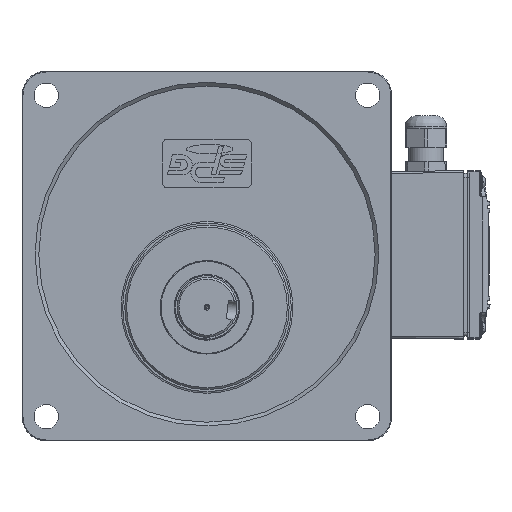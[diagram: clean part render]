
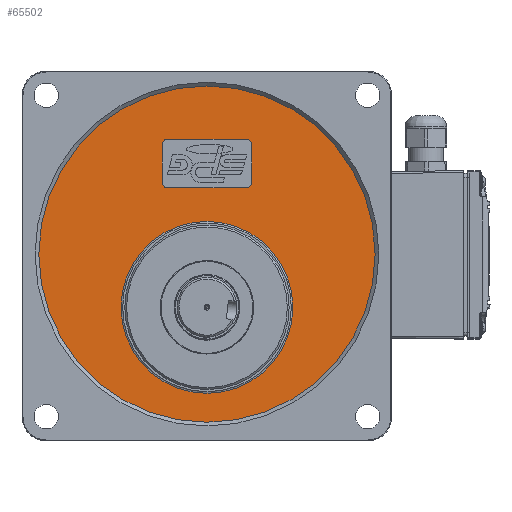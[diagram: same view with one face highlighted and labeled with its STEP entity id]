
A CAD part, top view. The second image highlights one B-rep face of the part: STEP entity #65502.
In plain terms, the highlighted planar face has unit normal (0, 0, 1).
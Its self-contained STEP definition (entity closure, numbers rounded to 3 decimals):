
#65401=CARTESIAN_POINT('',(46.0,28.5,94.));
#65402=VERTEX_POINT('',#65401);
#65403=CARTESIAN_POINT('',(0.0,28.5,94.));
#65404=DIRECTION('',(0.0,0.0,1.0));
#65405=DIRECTION('',(-1.0,0.0,0.0));
#65406=AXIS2_PLACEMENT_3D('',#65403,#65404,#65405);
#65407=CIRCLE('',#65406,46.0);
#65408=EDGE_CURVE('',#65402,#65402,#65407,.T.);
#65413=CARTESIAN_POINT('',(0.0,0.0,94.));
#65414=DIRECTION('',(0.0,0.0,-1.0));
#65415=DIRECTION('',(-1.0,0.0,0.0));
#65416=AXIS2_PLACEMENT_3D('',#65413,#65414,#65415);
#65417=PLANE('',#65416);
#65418=CARTESIAN_POINT('',(90.0,0.,94.));
#65419=VERTEX_POINT('',#65418);
#65420=CARTESIAN_POINT('',(0.0,0.0,94.));
#65421=DIRECTION('',(0.0,0.0,1.0));
#65422=DIRECTION('',(-1.0,0.0,0.0));
#65423=AXIS2_PLACEMENT_3D('',#65420,#65421,#65422);
#65424=CIRCLE('',#65423,90.0);
#65425=EDGE_CURVE('',#65419,#65419,#65424,.T.);
#65426=ORIENTED_EDGE('',*,*,#65425,.T.);
#65427=EDGE_LOOP('',(#65426));
#65428=FACE_OUTER_BOUND('',#65427,.T.);
#65429=CARTESIAN_POINT('',(-24.,-58.5,94.));
#65430=VERTEX_POINT('',#65429);
#65431=CARTESIAN_POINT('',(-24.,-38.5,94.));
#65432=VERTEX_POINT('',#65431);
#65433=CARTESIAN_POINT('',(-24.,-58.5,94.));
#65434=DIRECTION('',(0.0,1.0,0.0));
#65435=VECTOR('',#65434,20.);
#65436=LINE('',#65433,#65435);
#65437=EDGE_CURVE('',#65430,#65432,#65436,.T.);
#65438=ORIENTED_EDGE('',*,*,#65437,.T.);
#65439=CARTESIAN_POINT('',(-21.,-35.5,94.));
#65440=VERTEX_POINT('',#65439);
#65441=CARTESIAN_POINT('',(-21.,-38.5,94.));
#65442=DIRECTION('',(0.0,0.0,1.0));
#65443=DIRECTION('',(-0.707,0.707,0.0));
#65444=AXIS2_PLACEMENT_3D('',#65441,#65442,#65443);
#65445=CIRCLE('',#65444,3.0);
#65446=EDGE_CURVE('',#65440,#65432,#65445,.T.);
#65447=ORIENTED_EDGE('',*,*,#65446,.F.);
#65448=CARTESIAN_POINT('',(21.,-35.5,94.));
#65449=VERTEX_POINT('',#65448);
#65450=CARTESIAN_POINT('',(-21.,-35.5,94.));
#65451=DIRECTION('',(1.0,0.0,0.0));
#65452=VECTOR('',#65451,42.);
#65453=LINE('',#65450,#65452);
#65454=EDGE_CURVE('',#65440,#65449,#65453,.T.);
#65455=ORIENTED_EDGE('',*,*,#65454,.T.);
#65456=CARTESIAN_POINT('',(24.,-38.5,94.));
#65457=VERTEX_POINT('',#65456);
#65458=CARTESIAN_POINT('',(21.,-38.5,94.));
#65459=DIRECTION('',(0.0,0.0,1.0));
#65460=DIRECTION('',(0.707,0.707,0.0));
#65461=AXIS2_PLACEMENT_3D('',#65458,#65459,#65460);
#65462=CIRCLE('',#65461,3.0);
#65463=EDGE_CURVE('',#65457,#65449,#65462,.T.);
#65464=ORIENTED_EDGE('',*,*,#65463,.F.);
#65465=CARTESIAN_POINT('',(24.,-58.5,94.));
#65466=VERTEX_POINT('',#65465);
#65467=CARTESIAN_POINT('',(24.,-38.5,94.));
#65468=DIRECTION('',(0.0,-1.0,0.0));
#65469=VECTOR('',#65468,20.);
#65470=LINE('',#65467,#65469);
#65471=EDGE_CURVE('',#65457,#65466,#65470,.T.);
#65472=ORIENTED_EDGE('',*,*,#65471,.T.);
#65473=CARTESIAN_POINT('',(21.,-61.5,94.));
#65474=VERTEX_POINT('',#65473);
#65475=CARTESIAN_POINT('',(21.,-58.5,94.));
#65476=DIRECTION('',(0.0,0.0,1.0));
#65477=DIRECTION('',(0.707,-0.707,0.0));
#65478=AXIS2_PLACEMENT_3D('',#65475,#65476,#65477);
#65479=CIRCLE('',#65478,3.);
#65480=EDGE_CURVE('',#65474,#65466,#65479,.T.);
#65481=ORIENTED_EDGE('',*,*,#65480,.F.);
#65482=CARTESIAN_POINT('',(-21.,-61.5,94.));
#65483=VERTEX_POINT('',#65482);
#65484=CARTESIAN_POINT('',(21.,-61.5,94.));
#65485=DIRECTION('',(-1.0,0.0,0.0));
#65486=VECTOR('',#65485,42.);
#65487=LINE('',#65484,#65486);
#65488=EDGE_CURVE('',#65474,#65483,#65487,.T.);
#65489=ORIENTED_EDGE('',*,*,#65488,.T.);
#65490=CARTESIAN_POINT('',(-21.,-58.5,94.));
#65491=DIRECTION('',(0.0,0.0,1.0));
#65492=DIRECTION('',(-0.707,-0.707,0.0));
#65493=AXIS2_PLACEMENT_3D('',#65490,#65491,#65492);
#65494=CIRCLE('',#65493,3.0);
#65495=EDGE_CURVE('',#65430,#65483,#65494,.T.);
#65496=ORIENTED_EDGE('',*,*,#65495,.F.);
#65497=EDGE_LOOP('',(#65438,#65447,#65455,#65464,#65472,#65481,#65489,#65496));
#65498=FACE_BOUND('',#65497,.T.);
#65499=ORIENTED_EDGE('',*,*,#65408,.F.);
#65500=EDGE_LOOP('',(#65499));
#65501=FACE_BOUND('',#65500,.T.);
#65502=ADVANCED_FACE('',(#65428,#65498,#65501),#65417,.F.);
